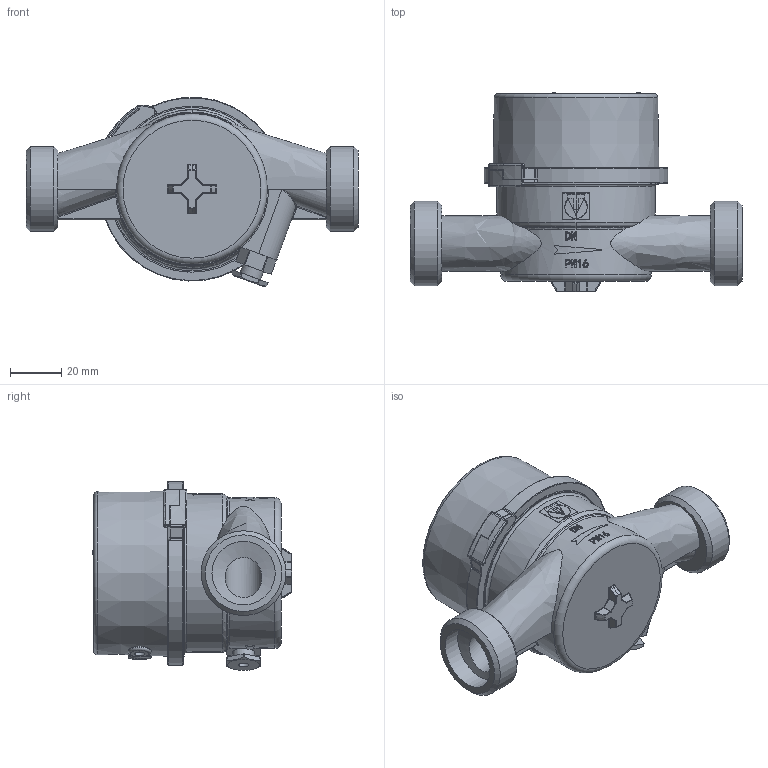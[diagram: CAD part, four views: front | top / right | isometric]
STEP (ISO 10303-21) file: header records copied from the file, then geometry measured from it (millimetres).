
FILE_DESCRIPTION(('TFLEX Exchange Step'),'2;1');
FILE_NAME('Meter VHM-T-20.stp', '2023-08-21T12:16:43+03:00',('denis'),('Unknown organisation'),'TFLEX Exchange 2023.0','T-FLEX CAD','Unknown authorisation');
FILE_SCHEMA( ('AUTOMOTIVE_DESIGN { 1 0 10303 214 1 1 1 1 }') );
Length unit declared in the file: millimetre
Products named in the file (1): Nodes
Bounding box: 130 x 78 x 73.99 mm (x, y, z)
Volume: 27624.1 mm3; surface area: 60680.3 mm2
Topology: 47 solids, 48 shells, 3886 faces, 10311 edges, 6681 vertices
Faces by surface type: plane 1667, bspline 1281, cylinder 656, torus 188, sphere 60, cone 34
Full cylindrical faces by diameter (mm): 2 x1, 2.1 x3, 2.3 x2, 4 x2, 4.05 x2, 5 x5, 5.5 x3, 5.6 x3, 6 x1, 8.5 x3, 8.917 x1, 9 x7, 10 x1, 11 x1, 12 x1, 13 x1, 14.4 x2, 24.8 x2, 27 x1, 28 x1, 33.2 x2, 59 x1, 59.6 x1, 60 x1, 60.5 x1, 62 x2, 62.6 x1, 63.5 x2, 65 x2
Entity records: 152975 total; most frequent: CARTESIAN_POINT 65851, ORIENTED_EDGE 20622, DIRECTION 13427, EDGE_CURVE 10311, VERTEX_POINT 6681, VECTOR 5607, LINE 5607, EDGE_LOOP 4094
